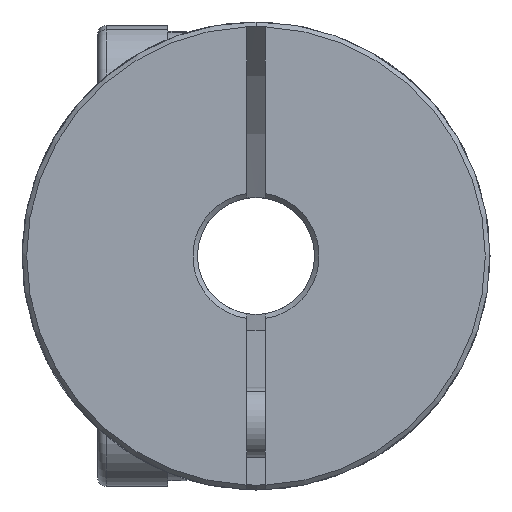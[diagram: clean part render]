
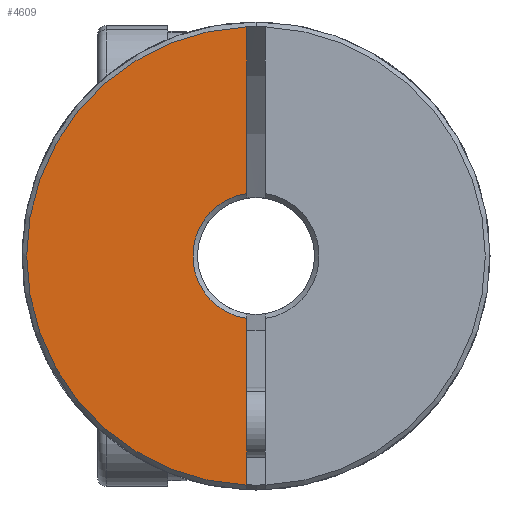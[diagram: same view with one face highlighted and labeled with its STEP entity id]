
A CAD part, front view. The second image highlights one B-rep face of the part: STEP entity #4609.
In plain terms, the highlighted planar face has unit normal (0, -1, 0).
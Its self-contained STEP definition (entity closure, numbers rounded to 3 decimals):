
#8 = ORIENTED_EDGE ( 'NONE', *, *, #3010, .F. ) ;
#31 = CARTESIAN_POINT ( 'NONE',  ( 0., -17.5, 0. ) ) ;
#136 = CIRCLE ( 'NONE', #6427, 2.7 ) ;
#248 = DIRECTION ( 'NONE',  ( 0., 0., 1. ) ) ;
#289 = DIRECTION ( 'NONE',  ( 0., 0., 1. ) ) ;
#442 = CARTESIAN_POINT ( 'NONE',  ( -0.4, -17.5, 0. ) ) ;
#651 = DIRECTION ( 'NONE',  ( 0., 1., 0. ) ) ;
#961 = CARTESIAN_POINT ( 'NONE',  ( -0.4, -17.5, 9.792 ) ) ;
#1278 = AXIS2_PLACEMENT_3D ( 'NONE', #31, #4111, #4703 ) ;
#1578 = CARTESIAN_POINT ( 'NONE',  ( -0.4, -17.5, 2.67 ) ) ;
#1806 = CARTESIAN_POINT ( 'NONE',  ( 0., -17.5, 0. ) ) ;
#2212 = CARTESIAN_POINT ( 'NONE',  ( -0.4, -17.5, -9.792 ) ) ;
#2991 = VERTEX_POINT ( 'NONE', #6959 ) ;
#3010 = EDGE_CURVE ( 'NONE', #6240, #4311, #3361, .T. ) ;
#3053 = FACE_OUTER_BOUND ( 'NONE', #4225, .T. ) ;
#3184 = EDGE_CURVE ( 'NONE', #2991, #4357, #4712, .T. ) ;
#3261 = CARTESIAN_POINT ( 'NONE',  ( 0., -17.5, 0. ) ) ;
#3361 = LINE ( 'NONE', #5823, #5882 ) ;
#4111 = DIRECTION ( 'NONE',  ( 0., -1., 0. ) ) ;
#4165 = ORIENTED_EDGE ( 'NONE', *, *, #6646, .T. ) ;
#4225 = EDGE_LOOP ( 'NONE', ( #8, #4165, #4695, #7006 ) ) ;
#4311 = VERTEX_POINT ( 'NONE', #1578 ) ;
#4357 = VERTEX_POINT ( 'NONE', #2212 ) ;
#4609 = ADVANCED_FACE ( 'NONE', ( #3053 ), #5958, .F. ) ;
#4695 = ORIENTED_EDGE ( 'NONE', *, *, #3184, .F. ) ;
#4703 = DIRECTION ( 'NONE',  ( 0., 0., 1. ) ) ;
#4712 = LINE ( 'NONE', #442, #6054 ) ;
#5678 = DIRECTION ( 'NONE',  ( 0., 0., -1. ) ) ;
#5823 = CARTESIAN_POINT ( 'NONE',  ( -0.4, -17.5, 0. ) ) ;
#5845 = DIRECTION ( 'NONE',  ( 0., 0., -1. ) ) ;
#5882 = VECTOR ( 'NONE', #5845, 1000. ) ;
#5890 = EDGE_CURVE ( 'NONE', #2991, #4311, #136, .T. ) ;
#5958 = PLANE ( 'NONE',  #6782 ) ;
#6054 = VECTOR ( 'NONE', #5678, 1000. ) ;
#6240 = VERTEX_POINT ( 'NONE', #961 ) ;
#6427 = AXIS2_PLACEMENT_3D ( 'NONE', #3261, #6707, #289 ) ;
#6646 = EDGE_CURVE ( 'NONE', #6240, #4357, #6981, .T. ) ;
#6707 = DIRECTION ( 'NONE',  ( 0., 1., 0. ) ) ;
#6782 = AXIS2_PLACEMENT_3D ( 'NONE', #1806, #651, #248 ) ;
#6959 = CARTESIAN_POINT ( 'NONE',  ( -0.4, -17.5, -2.67 ) ) ;
#6981 = CIRCLE ( 'NONE', #1278, 9.8 ) ;
#7006 = ORIENTED_EDGE ( 'NONE', *, *, #5890, .T. ) ;
